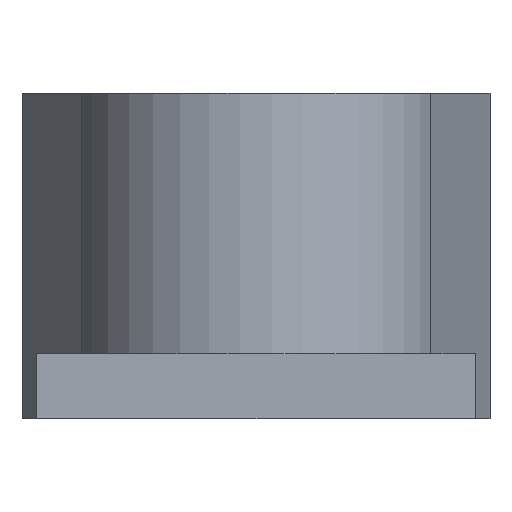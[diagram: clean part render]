
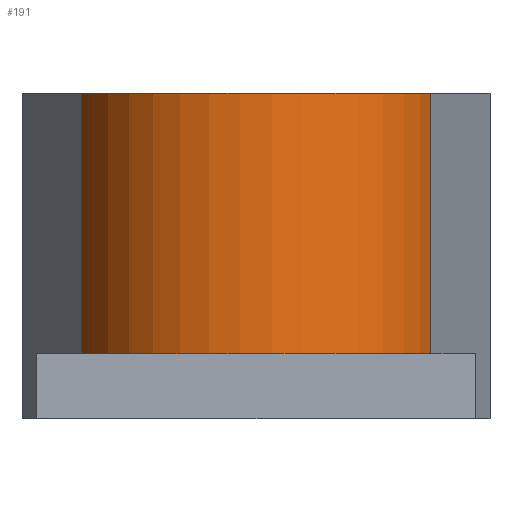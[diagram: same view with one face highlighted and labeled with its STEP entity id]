
A CAD part, left-side view. The second image highlights one B-rep face of the part: STEP entity #191.
In plain terms, the highlighted cylindrical face has radius 14 mm (diameter 28 mm), a partial arc.
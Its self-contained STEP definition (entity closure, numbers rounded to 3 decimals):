
#121=CYLINDRICAL_SURFACE('',#757,14.);
#144=CIRCLE('',#755,14.);
#145=CIRCLE('',#756,14.);
#191=ADVANCED_FACE('',(#242),#121,.T.);
#242=FACE_OUTER_BOUND('',#272,.T.);
#272=EDGE_LOOP('',(#341,#342,#343,#344));
#341=ORIENTED_EDGE('',*,*,#581,.F.);
#342=ORIENTED_EDGE('',*,*,#580,.T.);
#343=ORIENTED_EDGE('',*,*,#582,.F.);
#344=ORIENTED_EDGE('',*,*,#583,.F.);
#512=VERTEX_POINT('',#1075);
#514=VERTEX_POINT('',#1080);
#515=VERTEX_POINT('',#1084);
#516=VERTEX_POINT('',#1086);
#580=EDGE_CURVE('',#512,#514,#668,.T.);
#581=EDGE_CURVE('',#512,#515,#144,.T.);
#582=EDGE_CURVE('',#516,#514,#145,.T.);
#583=EDGE_CURVE('',#515,#516,#669,.T.);
#668=LINE('',#1081,#714);
#669=LINE('',#1087,#715);
#714=VECTOR('',#863,1.);
#715=VECTOR('',#870,1.);
#755=AXIS2_PLACEMENT_3D('',#1083,#866,#867);
#756=AXIS2_PLACEMENT_3D('',#1085,#868,#869);
#757=AXIS2_PLACEMENT_3D('',#1088,#871,#872);
#863=DIRECTION('',(0.,0.,1.));
#866=DIRECTION('',(0.,0.,-1.));
#867=DIRECTION('',(1.,0.,0.));
#868=DIRECTION('',(0.,0.,1.));
#869=DIRECTION('',(1.,0.,0.));
#870=DIRECTION('',(0.,0.,1.));
#871=DIRECTION('',(0.,0.,1.));
#872=DIRECTION('',(-1.,0.,0.));
#1075=CARTESIAN_POINT('',(-3.855,-13.459,5.));
#1080=CARTESIAN_POINT('',(-3.855,-13.459,25.));
#1081=CARTESIAN_POINT('',(-3.855,-13.459,0.));
#1083=CARTESIAN_POINT('',(0.,0.,5.));
#1084=CARTESIAN_POINT('',(-3.855,13.459,5.));
#1085=CARTESIAN_POINT('',(0.,0.,25.));
#1086=CARTESIAN_POINT('',(-3.855,13.459,25.));
#1087=CARTESIAN_POINT('',(-3.855,13.459,0.));
#1088=CARTESIAN_POINT('',(0.,0.,0.));
